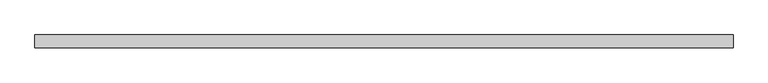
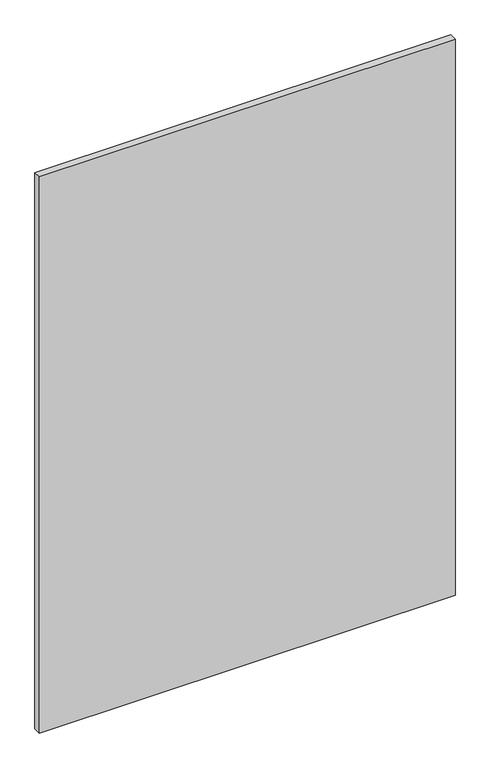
"""IFC4 building model written with IfcOpenShell, lengths in millimetres: plate geometry, Vitré."""

from ifc_helpers import new_model, si_unit, origin, origin_with_axes, place, context, project, spatial, polyline, outline, extrude, source, transform, mapped, element, save


def plate_63a2ff6c(model_context):
    return source(origin(), model_context, "Body", "SweptSolid", [
        extrude(outline(polyline([(-1100.646826, -20.0), (-1100.646826, 20.0), (1100.646826, 20.0), (1100.646826, -20.0), (-1100.646826, -20.0)])), origin_with_axes(), (0.0, 0.0, 1.0), 3112.7110145),
    ])


if __name__ == "__main__":
    model = new_model("IFC4")
    model_context = context("Model", 3, world=origin())
    ifc_project = project(units=[si_unit("LENGTHUNIT", "METRE", prefix="MILLI")], contexts=[model_context])
    site = spatial("IfcSite", under=ifc_project)
    building = spatial("IfcBuilding", under=site)
    placement = place(None, origin())
    plate_shape = plate_63a2ff6c(model_context)
    element("IfcPlate", 1, ObjectType="Vitré", at=placement, inside=building, context=model_context, shape_type="MappedRepresentation", body=[
        mapped(plate_shape, transform((0.0, 0.0, 0.0), x_axis=(1.0, 0.0, 0.0), y_axis=(0.0, 1.0, 0.0), z_axis=(0.0, 0.0, 1.0))),
    ])
    save(model, "model.ifc")
